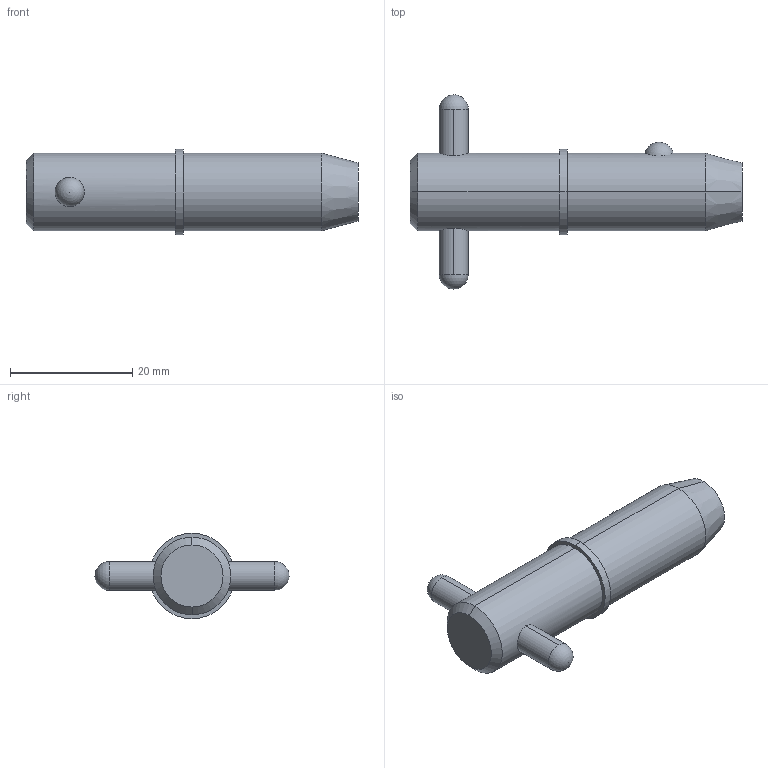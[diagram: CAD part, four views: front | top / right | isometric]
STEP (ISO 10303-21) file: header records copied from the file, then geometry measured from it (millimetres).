
FILE_DESCRIPTION (( 'STEP AP203' ), '1' );
FILE_NAME ('33018.W5005.step', '2024-11-19T17:14:15', ( '' ), ( '' ), 'SwSTEP 2.0', 'SolidWorks 2019', '' );
FILE_SCHEMA (( 'CONFIG_CONTROL_DESIGN' ));
Length unit declared in the file: millimetre
Products named in the file (3): Part1_33018.W5005; 33018.W5005; Part2_33018.W5005
Assembly tree (2 placements, depth 2):
  33018.W5005
    Part1_33018.W5005
    Part2_33018.W5005
Bounding box: 54.28 x 31.75 x 13.97 mm (x, y, z)
Volume: 7042.7 mm3; surface area: 3001.9 mm2
Topology: 2 solids, 2 shells, 22 faces, 47 edges, 30 vertices
Faces by surface type: cylinder 10, sphere 4, cone 4, plane 4
Entity records: 1043 total; most frequent: CARTESIAN_POINT 286, DIRECTION 110, ORIENTED_EDGE 82, AXIS2_PLACEMENT_3D 48, EDGE_CURVE 41, EDGE_LOOP 27, PERSON_AND_ORGANIZATION 26, VERTEX_POINT 26
